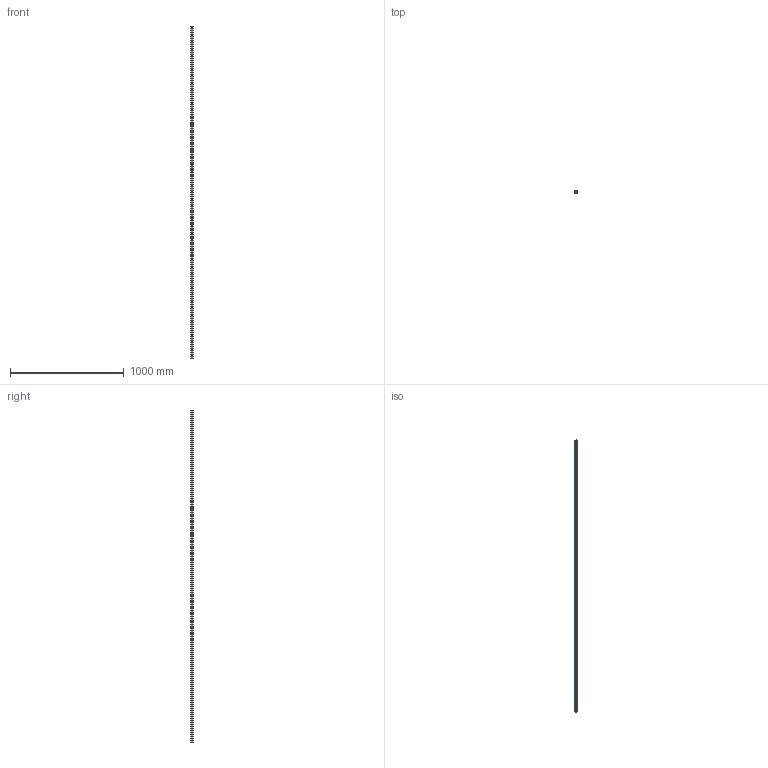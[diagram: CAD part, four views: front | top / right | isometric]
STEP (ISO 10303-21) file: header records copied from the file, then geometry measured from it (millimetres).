
FILE_DESCRIPTION (( 'STEP AP203' ), '1' );
FILE_NAME ('L1016.BRF25-2920.step', '2019-06-13T08:44:28', ( '' ), ( '' ), 'SwSTEP 2.0', 'SolidWorks 2017', '' );
FILE_SCHEMA (( 'CONFIG_CONTROL_DESIGN' ));
Length unit declared in the file: millimetre
Products named in the file (1): L1016.BRF25-2920
Bounding box: 23 x 19.2 x 2920 mm (x, y, z)
Volume: 1114866.5 mm3; surface area: 268720.7 mm2
Topology: 1 solids, 1 shells, 369 faces, 856 edges, 489 vertices
Faces by surface type: cylinder 200, cone 98, plane 71
Entity records: 9917 total; most frequent: DIRECTION 1898, CARTESIAN_POINT 1617, ORIENTED_EDGE 1516, AXIS2_PLACEMENT_3D 770, EDGE_CURVE 758, VERTEX_POINT 489, EDGE_LOOP 467, CIRCLE 400
